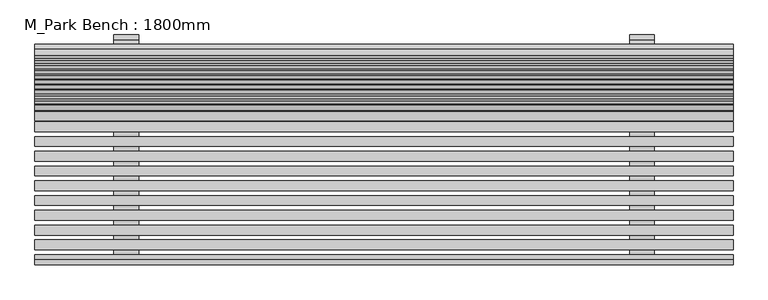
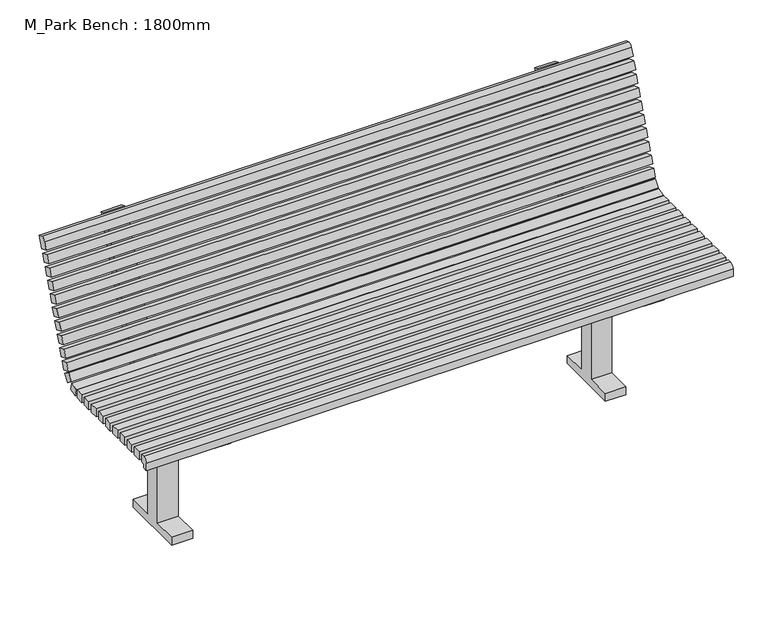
"""IFC4 building model written with IfcOpenShell, lengths in millimetres: geographic element geometry, M_Park Bench : 1800mm."""

from ifc_helpers import new_model, si_unit, point, frame, frame_2d, origin, place, context, project, spatial, polyline, circle_curve, trimmed, segment, composite_curve, outline, extrude, source, transform, mapped, element, save


def m_park_bench_1800mm_affd9039(model_context):
    return source(origin(), model_context, "Body", "SweptSolid", [
        extrude(outline(polyline([(900.0, -255.4337104), (900.0, -280.8337104), (-900.0, -280.8337104), (-900.0, -255.4337104), (900.0, -255.4337104)])), frame((0.0, 0.0, 457.2), z_axis=(0.0, 0.0, 1.0), x_axis=(1.0, 0.0, 0.0)), (0.0, 0.0, 1.0), 25.4),
        extrude(outline(polyline([(900.0, -217.3337104), (900.0, -242.7337104), (-900.0, -242.7337104), (-900.0, -217.3337104), (900.0, -217.3337104)])), frame((0.0, 0.0, 457.2), z_axis=(0.0, 0.0, 1.0), x_axis=(1.0, 0.0, 0.0)), (0.0, 0.0, 1.0), 25.4),
        extrude(outline(polyline([(900.0, -179.2337104), (900.0, -204.6337104), (-900.0, -204.6337104), (-900.0, -179.2337104), (900.0, -179.2337104)])), frame((0.0, 0.0, 457.2), z_axis=(0.0, 0.0, 1.0), x_axis=(1.0, 0.0, 0.0)), (0.0, 0.0, 1.0), 25.4),
        extrude(outline(polyline([(900.0, -141.1337104), (900.0, -166.5337104), (-900.0, -166.5337104), (-900.0, -141.1337104), (900.0, -141.1337104)])), frame((0.0, 0.0, 457.2), z_axis=(0.0, 0.0, 1.0), x_axis=(1.0, 0.0, 0.0)), (0.0, 0.0, 1.0), 25.4),
        extrude(outline(polyline([(900.0, -103.0337104), (900.0, -128.4337104), (-900.0, -128.4337104), (-900.0, -103.0337104), (900.0, -103.0337104)])), frame((0.0, 0.0, 457.2), z_axis=(0.0, 0.0, 1.0), x_axis=(1.0, 0.0, 0.0)), (0.0, 0.0, 1.0), 25.4),
        extrude(outline(polyline([(900.0, -64.9337104), (900.0, -90.3337104), (-900.0, -90.3337104), (-900.0, -64.9337104), (900.0, -64.9337104)])), frame((0.0, 0.0, 457.2), z_axis=(0.0, 0.0, 1.0), x_axis=(1.0, 0.0, 0.0)), (0.0, 0.0, 1.0), 25.4),
        extrude(outline(polyline([(900.0, -26.8337104), (900.0, -52.2337104), (-900.0, -52.2337104), (-900.0, -26.8337104), (900.0, -26.8337104)])), frame((0.0, 0.0, 457.2), z_axis=(0.0, 0.0, 1.0), x_axis=(1.0, 0.0, 0.0)), (0.0, 0.0, 1.0), 25.4),
        extrude(outline(polyline([(900.0, 11.2662896), (900.0, -14.1337104), (-900.0, -14.1337104), (-900.0, 11.2662896), (900.0, 11.2662896)])), frame((0.0, 0.0, 457.2), z_axis=(0.0, 0.0, 1.0), x_axis=(1.0, 0.0, 0.0)), (0.0, 0.0, 1.0), 25.4),
        extrude(outline(polyline([(900.0, 49.3662896), (900.0, 23.9662896), (-900.0, 23.9662896), (-900.0, 49.3662896), (900.0, 49.3662896)])), frame((0.0, 0.0, 457.2), z_axis=(0.0, 0.0, 1.0), x_axis=(1.0, 0.0, 0.0)), (0.0, 0.0, 1.0), 25.4),
        extrude(outline(composite_curve([segment(polyline([(-304.8, 457.2), (-304.8, 444.5), (-318.9337104, 444.5), (-318.9337104, 468.3125)]), True, "CONTINUOUS"), segment(trimmed(circle_curve(frame_2d((-304.6462104, 468.3125)), 14.2875), [point((-318.9337104, 468.3125))], [point((-304.6462104, 482.6))], False, "CARTESIAN"), True, "CONTINUOUS"), segment(polyline([(-304.6462104, 482.6), (-293.5337104, 482.6), (-293.5337104, 457.2), (-304.8, 457.2)]), True, "CONTINUOUS")], self_intersect=False)), frame((-900.0, 0.0, 0.0), z_axis=(1.0, 0.0, 0.0), x_axis=(0.0, 1.0, 0.0)), (0.0, 0.0, 1.0), 1800.0),
        extrude(outline(polyline([(0.0, -25.4), (0.0, 0.0), (1800.0, 0.0), (1800.0, -25.4), (0.0, -25.4)])), frame((900.0, 121.2738625, 585.5181247), z_axis=(0.0, 0.342020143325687, 0.9396926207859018), x_axis=(-1.0, 0.0, 0.0)), (0.0, 0.0, 1.0), 25.4),
        extrude(outline(polyline([(0.0, -25.4), (0.0, 0.0), (1800.0, 0.0), (1800.0, -25.4), (0.0, -25.4)])), frame((900.0, 134.30483, 621.3204136), z_axis=(0.0, 0.34202014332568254, 0.9396926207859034), x_axis=(-1.0, 0.0, 0.0)), (0.0, 0.0, 1.0), 25.4),
        extrude(outline(polyline([(0.0, -25.3999999), (0.0, 0.0), (1800.0, 0.0), (1800.0, -25.3999999), (0.0, -25.3999999)])), frame((900.0, 95.2119276, 513.913547), z_axis=(0.0, 0.34202014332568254, 0.9396926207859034), x_axis=(-1.0, 0.0, 0.0)), (0.0, 0.0, 1.0), 25.4),
        extrude(outline(polyline([(0.0, -25.4000001), (0.0, 0.0), (1800.0, 0.0), (1800.0, -25.4000001), (0.0, -25.4000001)])), frame((900.0, 108.242895, 549.7158359), z_axis=(0.0, 0.34202014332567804, 0.9396926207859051), x_axis=(-1.0, 0.0, 0.0)), (0.0, 0.0, 1.0), 25.4),
        extrude(outline(polyline([(0.0, -25.4), (0.0, 0.0), (1800.0, 0.0), (1800.0, -25.4), (0.0, -25.4)])), frame((900.0, 173.3977323, 728.7272801), z_axis=(0.0, 0.34202014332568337, 0.9396926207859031), x_axis=(-1.0, 0.0, 0.0)), (0.0, 0.0, 1.0), 25.4),
        extrude(outline(polyline([(0.0, -25.4000001), (0.0, 0.0), (1800.0, 0.0), (1800.0, -25.4000001), (0.0, -25.4000001)])), frame((900.0, 186.4286998, 764.529569), z_axis=(0.0, 0.3420201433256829, 0.9396926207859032), x_axis=(-1.0, 0.0, 0.0)), (0.0, 0.0, 1.0), 25.4),
        extrude(outline(polyline([(0.0, -25.4), (0.0, 0.0), (1800.0, 0.0), (1800.0, -25.4), (0.0, -25.4)])), frame((900.0, 147.3357974, 657.1227024), z_axis=(0.0, 0.3420201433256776, 0.9396926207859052), x_axis=(-1.0, 0.0, 0.0)), (0.0, 0.0, 1.0), 25.4),
        extrude(outline(polyline([(0.0, -25.4), (0.0, 0.0), (1800.0, 0.0), (1800.0, -25.4), (0.0, -25.4)])), frame((900.0, 160.3667649, 692.9249913), z_axis=(0.0, 0.34202014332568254, 0.9396926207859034), x_axis=(-1.0, 0.0, 0.0)), (0.0, 0.0, 1.0), 25.4),
        extrude(outline(polyline([(0.0, -25.3999999), (0.0, 0.0), (1800.0, 0.0), (1800.0, -25.3999999), (0.0, -25.3999999)])), frame((900.0, 199.4596673, 800.3318578), z_axis=(0.0, 0.3420201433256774, 0.9396926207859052), x_axis=(-1.0, 0.0, 0.0)), (0.0, 0.0, 1.0), 25.4),
        extrude(outline(composite_curve([segment(polyline([(249.3897948, 863.2491239), (236.3588273, 827.4468351), (212.4906347, 836.1341467), (221.1779464, 860.0023393)]), True, "CONTINUOUS"), segment(trimmed(circle_curve(frame_2d((233.1120426, 855.6586834)), 12.7), [point((221.1779464, 860.0023393))], [point((237.4556985, 867.5927797))], False, "CARTESIAN"), True, "CONTINUOUS"), segment(polyline([(237.4556985, 867.5927797), (249.3897948, 863.2491239)]), True, "CONTINUOUS")], self_intersect=False)), frame((-900.0, 0.0, 0.0), z_axis=(1.0, 0.0, 0.0), x_axis=(0.0, 1.0, 0.0)), (0.0, 0.0, 1.0), 1800.0),
        extrude(outline(polyline([(0.0, -25.4), (0.0, 0.0), (1800.0, 0.0), (1800.0, -25.4), (0.0, -25.4)])), frame((900.0, 78.7855779, 490.7267336), z_axis=(0.0, 0.5735764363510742, 0.8191520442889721), x_axis=(-1.0, 0.0, 0.0)), (0.0, 0.0, 1.0), 25.4),
        extrude(outline(polyline([(0.0, -25.4), (0.0, 0.0), (1800.0, 0.0), (1800.0, -25.4), (0.0, -25.4)])), frame((900.0, 59.0817015, 457.2297909), z_axis=(0.0, -0.2588190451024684, 0.9659258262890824), x_axis=(-1.0, 0.0, 0.0)), (0.0, 0.0, 1.0), 25.4),
        extrude(outline(composite_curve([segment(polyline([(-101.6, 25.4), (-25.4, 25.4), (-25.4, 431.8), (-304.8, 431.8), (-304.8, 457.2), (57.1368213, 457.2)]), True, "CONTINUOUS"), segment(trimmed(circle_curve(frame_2d((57.1368213, 520.7)), 63.5), [point((57.1368213, 457.2))], [point((116.8073027, 498.9817209))], True, "CARTESIAN"), True, "CONTINUOUS"), segment(polyline([(116.8073027, 498.9817209), (244.9406421, 851.0251774)]), True, "CONTINUOUS"), segment(trimmed(circle_curve(frame_2d((256.8747384, 846.6815216)), 12.7), [point((244.9406421, 851.0251774))], [point((261.2183942, 858.6156178))], False, "CARTESIAN"), True, "CONTINUOUS"), segment(polyline([(261.2183942, 858.6156178), (273.1524905, 854.271962), (140.6754953, 490.2944093)]), True, "CONTINUOUS"), segment(trimmed(circle_curve(frame_2d((57.1368213, 520.7)), 88.9), [point((140.6754953, 490.2944093))], [point((57.1368213, 431.8))], False, "CARTESIAN"), True, "CONTINUOUS"), segment(polyline([(57.1368213, 431.8), (25.4, 431.8), (25.4, 25.4), (101.6, 25.4), (101.6, 0.0), (-101.6, 0.0), (-101.6, 25.4)]), True, "CONTINUOUS")], self_intersect=False)), frame((633.9736591, 0.0, 0.0), z_axis=(1.0, 0.0, 0.0), x_axis=(0.0, 1.0, 0.0)), (0.0, 0.0, 1.0), 62.8263409),
        extrude(outline(composite_curve([segment(polyline([(-101.6, 25.4), (-25.4, 25.4), (-25.4, 431.8), (-304.8, 431.8), (-304.8, 457.2), (57.1368213, 457.2)]), True, "CONTINUOUS"), segment(trimmed(circle_curve(frame_2d((57.1368213, 520.7)), 63.5), [point((57.1368213, 457.2))], [point((116.8073027, 498.9817209))], True, "CARTESIAN"), True, "CONTINUOUS"), segment(polyline([(116.8073027, 498.9817209), (244.9406421, 851.0251774)]), True, "CONTINUOUS"), segment(trimmed(circle_curve(frame_2d((256.8747384, 846.6815216)), 12.7), [point((244.9406421, 851.0251774))], [point((261.2183942, 858.6156178))], False, "CARTESIAN"), True, "CONTINUOUS"), segment(polyline([(261.2183942, 858.6156178), (273.1524905, 854.271962), (140.6754953, 490.2944093)]), True, "CONTINUOUS"), segment(trimmed(circle_curve(frame_2d((57.1368213, 520.7)), 88.9), [point((140.6754953, 490.2944093))], [point((57.1368213, 431.8))], False, "CARTESIAN"), True, "CONTINUOUS"), segment(polyline([(57.1368213, 431.8), (25.4, 431.8), (25.4, 25.4), (101.6, 25.4), (101.6, 0.0), (-101.6, 0.0), (-101.6, 25.4)]), True, "CONTINUOUS")], self_intersect=False)), frame((-696.8, 0.0, 0.0), z_axis=(1.0, 0.0, 0.0), x_axis=(0.0, 1.0, 0.0)), (0.0, 0.0, 1.0), 63.8916859),
    ])


if __name__ == "__main__":
    model = new_model("IFC4")
    model_context = context("Model", 3, world=origin())
    ifc_project = project(units=[si_unit("LENGTHUNIT", "METRE", prefix="MILLI")], contexts=[model_context])
    site = spatial("IfcSite", under=ifc_project)
    building = spatial("IfcBuilding", under=site)
    placement = place(None, origin())
    m_park_bench_1800mm_shape = m_park_bench_1800mm_affd9039(model_context)
    element("IfcGeographicElement", 1, ObjectType="M_Park Bench : 1800mm", at=placement, inside=building, context=model_context, shape_type="MappedRepresentation", body=[
        mapped(m_park_bench_1800mm_shape, transform((0.0, 0.0, 0.0), x_axis=(1.0, 0.0, 0.0), y_axis=(0.0, 1.0, 0.0), z_axis=(0.0, 0.0, 1.0))),
    ])
    save(model, "model.ifc")
